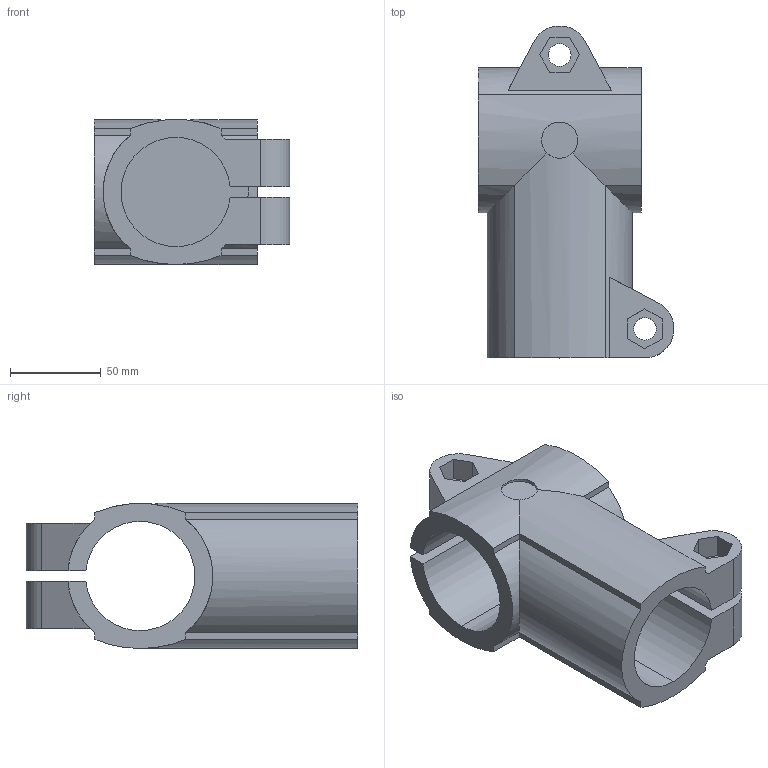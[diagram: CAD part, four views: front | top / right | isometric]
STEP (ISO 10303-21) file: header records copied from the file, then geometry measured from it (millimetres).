
FILE_DESCRIPTION (( 'STEP AP203' ), '1' );
FILE_NAME ('Straight bracket 041J004325.STEP', '2009-10-15T06:18:13', ( 'HP' ), ( '' ), 'SwSTEP 2.0', 'SolidWorks 2008', '' );
FILE_SCHEMA (( 'CONFIG_CONTROL_DESIGN' ));
Length unit declared in the file: millimetre
Products named in the file (1): Straight bracket 041J004325
Bounding box: 108 x 182.94 x 80 mm (x, y, z)
Volume: 476062.4 mm3; surface area: 99559.2 mm2
Topology: 1 solids, 1 shells, 93 faces, 250 edges, 163 vertices
Faces by surface type: plane 57, cylinder 36
Entity records: 3076 total; most frequent: CARTESIAN_POINT 639, ORIENTED_EDGE 500, DIRECTION 483, EDGE_CURVE 250, LINE 171, VECTOR 171, VERTEX_POINT 163, AXIS2_PLACEMENT_3D 156
